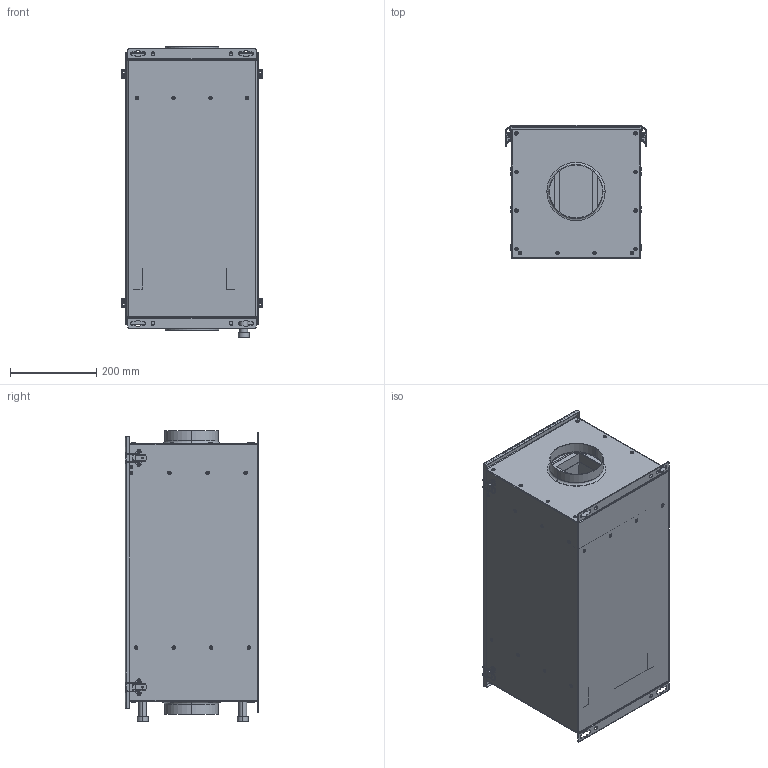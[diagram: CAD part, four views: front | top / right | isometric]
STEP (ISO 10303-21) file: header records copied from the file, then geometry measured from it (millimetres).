
FILE_DESCRIPTION (( 'STEP AP203' ), '1' );
FILE_NAME ('112850-00_FTW125_step.step', '2020-08-26T09:27:02', ( '' ), ( '' ), 'SwSTEP 2.0', 'SolidWorks 2017', '' );
FILE_SCHEMA (( 'CONFIG_CONTROL_DESIGN' ));
Length unit declared in the file: millimetre
Products named in the file (1): 112850-00_FTW125_step
Bounding box: 327.58 x 309.3 x 674 mm (x, y, z)
Surface area: 1935217.3 mm2 (no closed solid volume)
Topology: 0 solids, 91 shells, 811 faces, 2610 edges, 1782 vertices
Faces by surface type: cylinder 405, plane 206, torus 116, bspline 84
Entity records: 30789 total; most frequent: CARTESIAN_POINT 7274, DIRECTION 5438, ORIENTED_EDGE 4108, EDGE_CURVE 2610, AXIS2_PLACEMENT_3D 2166, VERTEX_POINT 1782, CIRCLE 1438, VECTOR 1106
